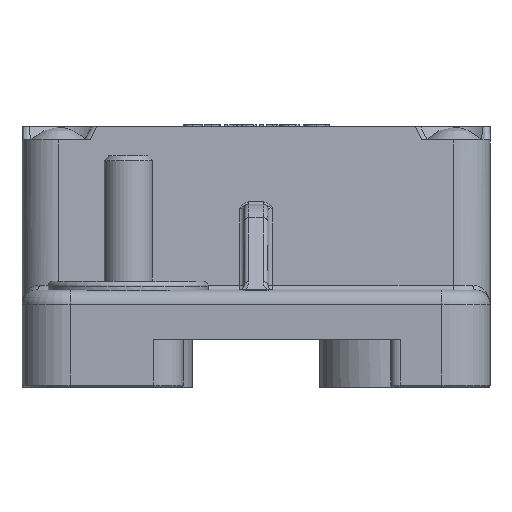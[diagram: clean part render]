
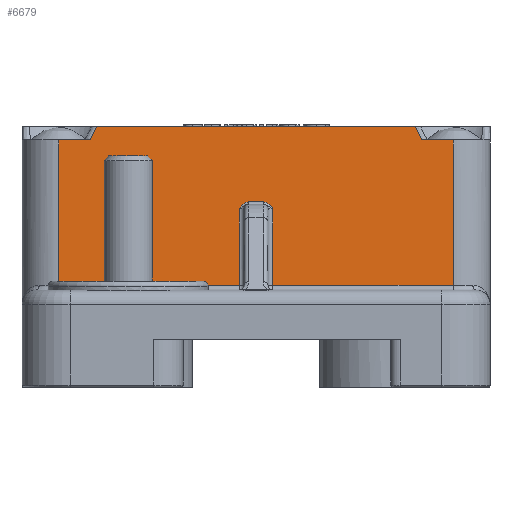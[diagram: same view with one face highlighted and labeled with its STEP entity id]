
A CAD part, left-side view. The second image highlights one B-rep face of the part: STEP entity #6679.
In plain terms, the highlighted planar face has unit normal (-1, 0, 0.024).
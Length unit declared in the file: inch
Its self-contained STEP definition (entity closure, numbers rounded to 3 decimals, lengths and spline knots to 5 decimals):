
#294=ELLIPSE('',#7169,0.01969,0.01969);
#819=FACE_OUTER_BOUND('',#1235,.T.);
#1235=EDGE_LOOP('',(#5611,#5612,#5613,#5614,#5615,#5616,#5617,#5618,#5619,
#5620,#5621,#5622,#5623,#5624,#5625,#5626));
#1555=B_SPLINE_CURVE_WITH_KNOTS('',3,(#12007,#12008,#12009,#12010,#12011,
#12012,#12013,#12014),.UNSPECIFIED.,.F.,.F.,(4,1,1,2,4),(-0.12651,
-0.0759,-0.0506,0.,0.00031),
 .UNSPECIFIED.);
#1556=B_SPLINE_CURVE_WITH_KNOTS('',3,(#12018,#12019,#12020,#12021,#12022,
#12023,#12024,#12025,#12026,#12027,#12028,#12029),.UNSPECIFIED.,.F.,.F.,
(4,2,1,1,1,1,1,1,4),(-0.12682,-0.12651,-0.08856,
-0.0759,-0.0506,-0.03795,-0.0253,
-0.01265,0.),.UNSPECIFIED.);
#1557=B_SPLINE_CURVE_WITH_KNOTS('',3,(#12038,#12039,#12040,#12041),
 .UNSPECIFIED.,.F.,.F.,(4,4),(-0.1688,-0.01794),
 .UNSPECIFIED.);
#1558=B_SPLINE_CURVE_WITH_KNOTS('',3,(#12043,#12044,#12045,#12046),
 .UNSPECIFIED.,.F.,.F.,(4,4),(-0.13324,0.01762),
 .UNSPECIFIED.);
#1857=LINE('',#11165,#2371);
#2012=LINE('',#11853,#2526);
#2027=LINE('',#11991,#2541);
#2028=LINE('',#12003,#2542);
#2029=LINE('',#12005,#2543);
#2030=LINE('',#12016,#2544);
#2031=LINE('',#12031,#2545);
#2032=LINE('',#12033,#2546);
#2033=LINE('',#12035,#2547);
#2034=LINE('',#12037,#2548);
#2035=LINE('',#12047,#2549);
#2371=VECTOR('',#7804,0.3937);
#2526=VECTOR('',#8383,0.3937);
#2541=VECTOR('',#8448,0.3937);
#2542=VECTOR('',#8453,0.3937);
#2543=VECTOR('',#8454,0.3937);
#2544=VECTOR('',#8455,0.3937);
#2545=VECTOR('',#8456,0.3937);
#2546=VECTOR('',#8457,0.3937);
#2547=VECTOR('',#8458,0.3937);
#2548=VECTOR('',#8459,0.3937);
#2549=VECTOR('',#8460,0.3937);
#2893=VERTEX_POINT('',#10857);
#2907=VERTEX_POINT('',#11133);
#3090=VERTEX_POINT('',#11849);
#3092=VERTEX_POINT('',#11852);
#3099=VERTEX_POINT('',#11885);
#3115=VERTEX_POINT('',#11990);
#3116=VERTEX_POINT('',#12002);
#3117=VERTEX_POINT('',#12004);
#3118=VERTEX_POINT('',#12006);
#3119=VERTEX_POINT('',#12015);
#3120=VERTEX_POINT('',#12017);
#3121=VERTEX_POINT('',#12030);
#3122=VERTEX_POINT('',#12032);
#3123=VERTEX_POINT('',#12034);
#3124=VERTEX_POINT('',#12036);
#3125=VERTEX_POINT('',#12042);
#3662=EDGE_CURVE('',#2893,#2907,#1857,.T.);
#3941=EDGE_CURVE('',#3092,#3090,#2012,.T.);
#3951=EDGE_CURVE('',#3090,#3099,#294,.T.);
#3976=EDGE_CURVE('',#3092,#3115,#2027,.T.);
#3979=EDGE_CURVE('',#3116,#3099,#2028,.T.);
#3980=EDGE_CURVE('',#3117,#3116,#2029,.T.);
#3981=EDGE_CURVE('',#3118,#3117,#1555,.T.);
#3982=EDGE_CURVE('',#3119,#3118,#2030,.T.);
#3983=EDGE_CURVE('',#3120,#3119,#1556,.T.);
#3984=EDGE_CURVE('',#3121,#3120,#2031,.T.);
#3985=EDGE_CURVE('',#3122,#3121,#2032,.T.);
#3986=EDGE_CURVE('',#3123,#3122,#2033,.T.);
#3987=EDGE_CURVE('',#3123,#3124,#2034,.T.);
#3988=EDGE_CURVE('',#2893,#3124,#1557,.T.);
#3989=EDGE_CURVE('',#3125,#2907,#1558,.T.);
#3990=EDGE_CURVE('',#3125,#3115,#2035,.T.);
#5611=ORIENTED_EDGE('',*,*,#3941,.T.);
#5612=ORIENTED_EDGE('',*,*,#3951,.T.);
#5613=ORIENTED_EDGE('',*,*,#3979,.F.);
#5614=ORIENTED_EDGE('',*,*,#3980,.F.);
#5615=ORIENTED_EDGE('',*,*,#3981,.F.);
#5616=ORIENTED_EDGE('',*,*,#3982,.F.);
#5617=ORIENTED_EDGE('',*,*,#3983,.F.);
#5618=ORIENTED_EDGE('',*,*,#3984,.F.);
#5619=ORIENTED_EDGE('',*,*,#3985,.F.);
#5620=ORIENTED_EDGE('',*,*,#3986,.F.);
#5621=ORIENTED_EDGE('',*,*,#3987,.T.);
#5622=ORIENTED_EDGE('',*,*,#3988,.F.);
#5623=ORIENTED_EDGE('',*,*,#3662,.T.);
#5624=ORIENTED_EDGE('',*,*,#3989,.F.);
#5625=ORIENTED_EDGE('',*,*,#3990,.T.);
#5626=ORIENTED_EDGE('',*,*,#3976,.F.);
#6388=PLANE('',#7186);
#6679=ADVANCED_FACE('',(#819),#6388,.F.);
#7169=AXIS2_PLACEMENT_3D('',#11886,#8404,#8405);
#7186=AXIS2_PLACEMENT_3D('',#12001,#8451,#8452);
#7804=DIRECTION('',(0.,1.,0.));
#8383=DIRECTION('',(0.,-1.,0.));
#8404=DIRECTION('center_axis',(1.,0.,-0.024));
#8405=DIRECTION('ref_axis',(0.024,0.,1.));
#8448=DIRECTION('',(0.024,0.,1.));
#8451=DIRECTION('center_axis',(1.,0.,-0.024));
#8452=DIRECTION('ref_axis',(-0.024,0.,-1.));
#8453=DIRECTION('',(0.,1.,0.));
#8454=DIRECTION('',(-0.024,0.,-1.));
#8455=DIRECTION('',(0.,1.,0.));
#8456=DIRECTION('',(0.024,0.,1.));
#8457=DIRECTION('',(0.,1.,0.));
#8458=DIRECTION('',(-0.024,0.,-1.));
#8459=DIRECTION('',(0.,1.,0.));
#8460=DIRECTION('',(0.,1.,0.));
#10857=CARTESIAN_POINT('',(0.68651,0.30418,0.86608));
#11133=CARTESIAN_POINT('',(0.68651,1.60527,0.86608));
#11165=CARTESIAN_POINT('',(0.68651,1.90945,0.86608));
#11849=CARTESIAN_POINT('',(0.67112,1.1694,0.23622));
#11852=CARTESIAN_POINT('',(0.67112,1.75883,0.23622));
#11853=CARTESIAN_POINT('',(0.67112,0.73819,0.23622));
#11885=CARTESIAN_POINT('',(0.67072,1.15002,0.21999));
#11886=CARTESIAN_POINT('Origin',(0.67064,1.1694,0.21654));
#11990=CARTESIAN_POINT('',(0.68521,1.75883,0.81293));
#11991=CARTESIAN_POINT('',(0.66847,1.75883,0.12784));
#12001=CARTESIAN_POINT('Origin',(0.67025,0.,
0.20079));
#12002=CARTESIAN_POINT('',(0.67072,1.02328,0.21999));
#12003=CARTESIAN_POINT('',(0.67072,0.47736,0.21999));
#12004=CARTESIAN_POINT('',(0.67834,1.02328,0.53166));
#12005=CARTESIAN_POINT('',(0.67182,1.02328,0.26493));
#12006=CARTESIAN_POINT('',(0.67904,0.98536,0.56047));
#12007=CARTESIAN_POINT('Ctrl Pts',(0.67904,0.98536,
0.56047));
#12008=CARTESIAN_POINT('Ctrl Pts',(0.67904,0.992,
0.56047));
#12009=CARTESIAN_POINT('Ctrl Pts',(0.67896,1.00192,0.55716));
#12010=CARTESIAN_POINT('Ctrl Pts',(0.67869,1.01456,0.54621));
#12011=CARTESIAN_POINT('Ctrl Pts',(0.67848,1.0199,0.53752));
#12012=CARTESIAN_POINT('Ctrl Pts',(0.67834,1.02324,0.53173));
#12013=CARTESIAN_POINT('Ctrl Pts',(0.67834,1.02326,0.5317));
#12014=CARTESIAN_POINT('Ctrl Pts',(0.67834,1.02328,0.53166));
#12015=CARTESIAN_POINT('',(0.67904,0.92409,0.56047));
#12016=CARTESIAN_POINT('',(0.67904,0.47736,0.56047));
#12017=CARTESIAN_POINT('',(0.67834,0.88617,0.53166));
#12018=CARTESIAN_POINT('Ctrl Pts',(0.67834,0.88617,
0.53166));
#12019=CARTESIAN_POINT('Ctrl Pts',(0.67834,0.88619,0.5317));
#12020=CARTESIAN_POINT('Ctrl Pts',(0.67834,0.88621,
0.53173));
#12021=CARTESIAN_POINT('Ctrl Pts',(0.67844,0.88871,
0.53608));
#12022=CARTESIAN_POINT('Ctrl Pts',(0.67859,0.89218,
0.54189));
#12023=CARTESIAN_POINT('Ctrl Pts',(0.67877,0.89866,
0.5495));
#12024=CARTESIAN_POINT('Ctrl Pts',(0.67888,0.9037,
0.55387));
#12025=CARTESIAN_POINT('Ctrl Pts',(0.67896,0.90955,
0.55721));
#12026=CARTESIAN_POINT('Ctrl Pts',(0.67901,0.91418,
0.55904));
#12027=CARTESIAN_POINT('Ctrl Pts',(0.67903,0.91909,0.56021));
#12028=CARTESIAN_POINT('Ctrl Pts',(0.67904,0.92243,
0.56047));
#12029=CARTESIAN_POINT('Ctrl Pts',(0.67904,0.92409,
0.56047));
#12030=CARTESIAN_POINT('',(0.67072,0.88617,0.21999));
#12031=CARTESIAN_POINT('',(0.67182,0.88617,0.26493));
#12032=CARTESIAN_POINT('',(0.67072,0.15061,0.21999));
#12033=CARTESIAN_POINT('',(0.67072,0.47736,0.21999));
#12034=CARTESIAN_POINT('',(0.68521,0.15061,0.81293));
#12035=CARTESIAN_POINT('',(0.6676,0.15061,0.09227));
#12036=CARTESIAN_POINT('',(0.68521,0.27771,0.81293));
#12037=CARTESIAN_POINT('',(0.68521,0.07382,0.81293));
#12038=CARTESIAN_POINT('Ctrl Pts',(0.68651,0.30418,
0.86608));
#12039=CARTESIAN_POINT('Ctrl Pts',(0.68607,0.29564,
0.84823));
#12040=CARTESIAN_POINT('Ctrl Pts',(0.68564,0.28687,
0.83048));
#12041=CARTESIAN_POINT('Ctrl Pts',(0.68521,0.27771,
0.81293));
#12042=CARTESIAN_POINT('',(0.68521,1.63174,0.81293));
#12043=CARTESIAN_POINT('Ctrl Pts',(0.68521,1.63174,0.81293));
#12044=CARTESIAN_POINT('Ctrl Pts',(0.68564,1.62258,0.83048));
#12045=CARTESIAN_POINT('Ctrl Pts',(0.68607,1.61381,0.84823));
#12046=CARTESIAN_POINT('Ctrl Pts',(0.68651,1.60527,0.86608));
#12047=CARTESIAN_POINT('',(0.68521,0.88091,0.81293));
